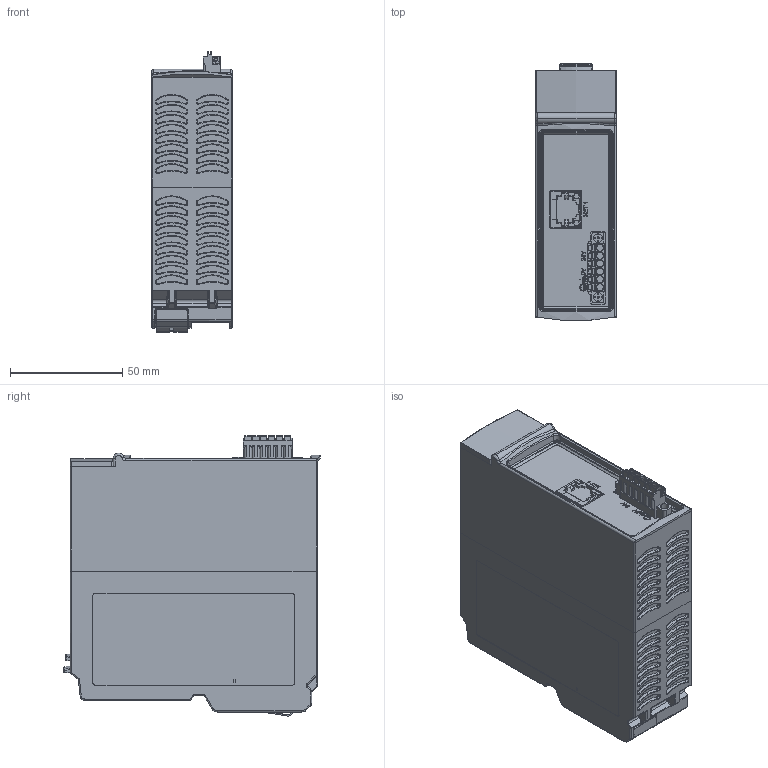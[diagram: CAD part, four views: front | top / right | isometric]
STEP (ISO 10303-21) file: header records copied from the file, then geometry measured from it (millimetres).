
FILE_DESCRIPTION (( 'STEP AP214' ), '1' );
FILE_NAME ('montagem.STEP', '2021-03-19T15:59:57', ( 'altus' ), ( '' ), 'SwSTEP 2.0', 'SolidWorks 2011', '' );
FILE_SCHEMA (( 'AUTOMOTIVE_DESIGN' ));
Length unit declared in the file: millimetre
Products named in the file (5): 00.301.787-6(LEDs ON); 00.303.111-9; 01.250.186-6(Serigrafia); NX8000_201307081; montagem
Assembly tree (4 placements, depth 2):
  montagem
    01.250.186-6(Serigrafia)
    00.303.111-9
    NX8000_201307081
    00.301.787-6(LEDs ON)
Bounding box: 36 x 114.46 x 124.79 mm (x, y, z)
Volume: 409004.7 mm3; surface area: 70823.1 mm2
Topology: 12 solids, 14 shells, 2595 faces, 6597 edges, 4139 vertices
Faces by surface type: plane 1007, bspline 873, cylinder 484, cone 219, torus 12
Entity records: 115492 total; most frequent: CARTESIAN_POINT 36555, ORIENTED_EDGE 13182, DIRECTION 9591, EDGE_CURVE 6591, VERTEX_POINT 4139, AXIS2_PLACEMENT_3D 3244, LINE 3103, VECTOR 3103
